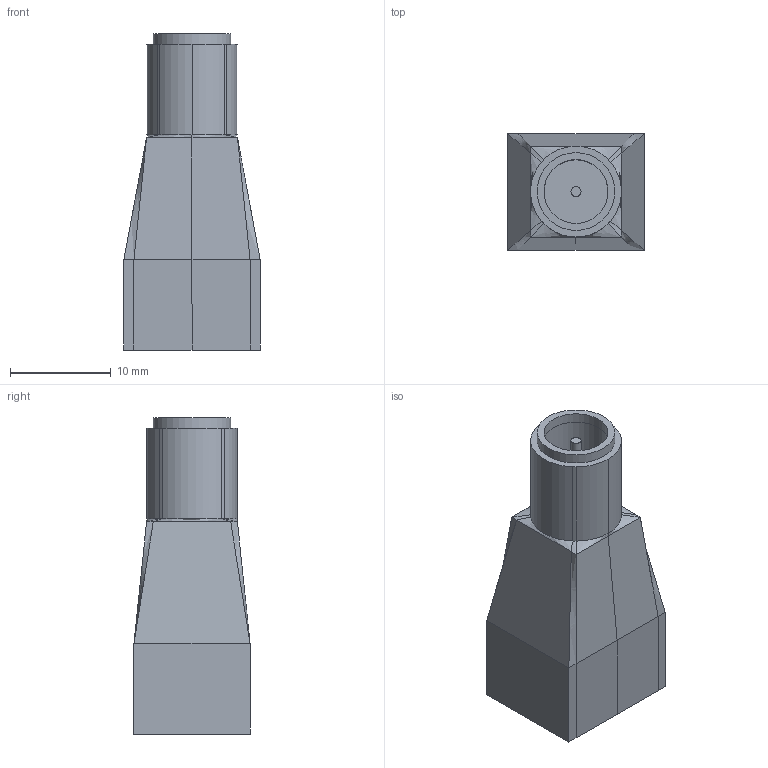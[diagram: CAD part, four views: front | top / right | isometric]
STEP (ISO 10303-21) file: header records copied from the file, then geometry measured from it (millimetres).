
FILE_DESCRIPTION(('FreeCAD Model'),'2;1');
FILE_NAME('Open CASCADE Shape Model','2023-04-10T16:47:32',('Author'),( ''),'Open CASCADE STEP processor 7.5','FreeCAD','Unknown');
FILE_SCHEMA(('AUTOMOTIVE_DESIGN { 1 0 10303 214 1 1 1 1 }'));
Length unit declared in the file: millimetre
Products named in the file (1): Pad225
Bounding box: 13.5 x 11.5 x 31.3 mm (x, y, z)
Volume: 2508.6 mm3; surface area: 1930.7 mm2
Topology: 1 solids, 1 shells, 49 faces, 104 edges, 60 vertices
Faces by surface type: plane 18, bspline 18, cylinder 13
Full cylindrical faces by diameter (mm): 1 x1, 6.326 x2, 7.7 x1
Entity records: 2671 total; most frequent: CARTESIAN_POINT 659, DIRECTION 304, ORIENTED_EDGE 208, PCURVE 208, DEFINITIONAL_REPRESENTATION 208, LINE 175, VECTOR 175, EDGE_CURVE 104
